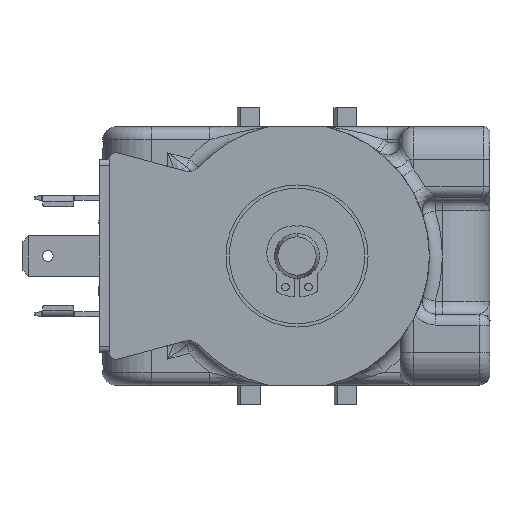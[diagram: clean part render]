
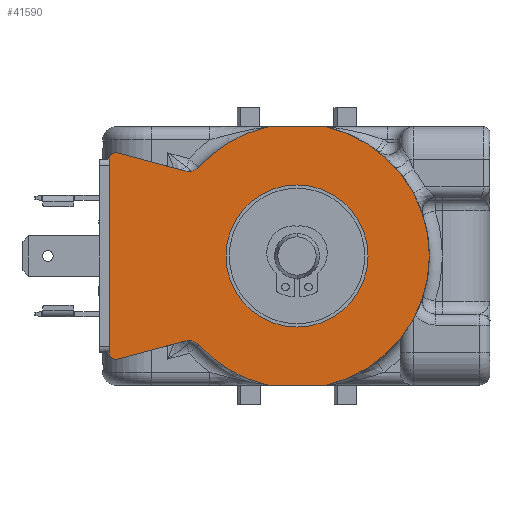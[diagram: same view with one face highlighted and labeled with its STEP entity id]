
A CAD part, front view. The second image highlights one B-rep face of the part: STEP entity #41590.
In plain terms, the highlighted planar face has unit normal (0, -1, 0).
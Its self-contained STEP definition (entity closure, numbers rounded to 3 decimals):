
#1490=DIRECTION('',(-1.,0.,0.));
#1491=VECTOR('',#1490,8.772);
#1492=CARTESIAN_POINT('',(4.5,-1.05,20.));
#1493=LINE('',#1492,#1491);
#4065=CARTESIAN_POINT('',(-28.107,-1.05,-15.025));
#4066=DIRECTION('',(0.,1.,0.));
#4067=DIRECTION('',(0.259,0.,-0.966));
#4068=AXIS2_PLACEMENT_3D('',#4065,#4066,#4067);
#4073=CARTESIAN_POINT('',(-28.107,-1.05,15.025));
#4074=DIRECTION('',(0.,1.,0.));
#4075=DIRECTION('',(-1.,0.,0.));
#4076=AXIS2_PLACEMENT_3D('',#4073,#4074,#4075);
#4081=DIRECTION('',(0.966,0.,-0.259));
#4082=VECTOR('',#4081,11.002);
#4083=CARTESIAN_POINT('',(-27.848,-1.05,15.991));
#4084=LINE('',#4083,#4082);
#4088=CARTESIAN_POINT('',(-16.703,-1.05,15.075));
#4089=DIRECTION('',(0.,-1.,0.));
#4090=DIRECTION('',(-0.259,0.,-0.966));
#4091=AXIS2_PLACEMENT_3D('',#4088,#4089,#4090);
#4096=CARTESIAN_POINT('',(0.,-1.05,0.));
#4097=DIRECTION('',(0.,1.,0.));
#4098=DIRECTION('',(-0.742,0.,0.67));
#4099=AXIS2_PLACEMENT_3D('',#4096,#4097,#4098);
#4104=CARTESIAN_POINT('',(-4.272,-1.05,18.));
#4105=DIRECTION('',(0.,1.,0.));
#4106=DIRECTION('',(-0.231,0.,0.973));
#4107=AXIS2_PLACEMENT_3D('',#4104,#4105,#4106);
#4112=CARTESIAN_POINT('',(0.,-1.05,0.));
#4113=DIRECTION('',(0.,1.,0.));
#4114=DIRECTION('',(0.22,0.,0.976));
#4115=AXIS2_PLACEMENT_3D('',#4112,#4113,#4114);
#4120=CARTESIAN_POINT('',(0.,-1.05,0.));
#4121=DIRECTION('',(0.,1.,0.));
#4122=DIRECTION('',(1.,0.,0.));
#4123=AXIS2_PLACEMENT_3D('',#4120,#4121,#4122);
#4128=DIRECTION('',(-1.,0.,0.));
#4129=VECTOR('',#4128,8.772);
#4130=CARTESIAN_POINT('',(4.5,-1.05,-20.));
#4131=LINE('',#4130,#4129);
#4135=CARTESIAN_POINT('',(-4.272,-1.05,-18.));
#4136=DIRECTION('',(0.,1.,0.));
#4137=DIRECTION('',(0.,0.,-1.));
#4138=AXIS2_PLACEMENT_3D('',#4135,#4136,#4137);
#4143=CARTESIAN_POINT('',(0.,-1.05,0.));
#4144=DIRECTION('',(0.,1.,0.));
#4145=DIRECTION('',(-0.231,0.,-0.973));
#4146=AXIS2_PLACEMENT_3D('',#4143,#4144,#4145);
#4151=CARTESIAN_POINT('',(-16.703,-1.05,-15.075));
#4152=DIRECTION('',(0.,-1.,0.));
#4153=DIRECTION('',(0.742,0.,0.67));
#4154=AXIS2_PLACEMENT_3D('',#4151,#4152,#4153);
#4159=DIRECTION('',(-0.966,0.,-0.259));
#4160=VECTOR('',#4159,11.002);
#4161=CARTESIAN_POINT('',(-17.221,-1.05,-13.143));
#4162=LINE('',#4161,#4160);
#4166=CARTESIAN_POINT('',(0.,-1.05,0.));
#4167=DIRECTION('',(0.,-1.,0.));
#4168=DIRECTION('',(0.,0.,1.));
#4169=AXIS2_PLACEMENT_3D('',#4166,#4167,#4168);
#4174=CARTESIAN_POINT('',(0.,-1.05,0.));
#4175=DIRECTION('',(0.,-1.,0.));
#4176=DIRECTION('',(0.,0.,-1.));
#4177=AXIS2_PLACEMENT_3D('',#4174,#4175,#4176);
#4454=DIRECTION('',(0.,0.,-1.));
#4455=VECTOR('',#4454,30.05);
#4456=CARTESIAN_POINT('',(-29.107,-1.05,15.025));
#4457=LINE('',#4456,#4455);
#34014=CARTESIAN_POINT('',(4.5,-1.05,20.));
#34015=VERTEX_POINT('',#34014);
#34016=CARTESIAN_POINT('',(-4.272,-1.05,20.));
#34017=VERTEX_POINT('',#34016);
#34221=CARTESIAN_POINT('',(-4.272,-1.05,-20.));
#34222=VERTEX_POINT('',#34221);
#34223=CARTESIAN_POINT('',(4.5,-1.05,-20.));
#34224=VERTEX_POINT('',#34223);
#37036=CARTESIAN_POINT('',(-29.107,-1.05,-15.025));
#37038=VERTEX_POINT('',#37036);
#37043=CARTESIAN_POINT('',(-29.107,-1.05,15.025));
#37044=VERTEX_POINT('',#37043);
#37261=CARTESIAN_POINT('',(0.,-1.05,11.));
#37262=CARTESIAN_POINT('',(0.,-1.05,-11.));
#37263=VERTEX_POINT('',#37261);
#37264=VERTEX_POINT('',#37262);
#37265=CARTESIAN_POINT('',(-27.848,-1.05,-15.991));
#37266=VERTEX_POINT('',#37265);
#37267=CARTESIAN_POINT('',(-27.848,-1.05,15.991));
#37268=VERTEX_POINT('',#37267);
#37269=CARTESIAN_POINT('',(-17.221,-1.05,13.143));
#37270=VERTEX_POINT('',#37269);
#37271=CARTESIAN_POINT('',(-15.218,-1.05,13.735));
#37272=VERTEX_POINT('',#37271);
#37273=CARTESIAN_POINT('',(-4.734,-1.05,19.946));
#37274=VERTEX_POINT('',#37273);
#37275=CARTESIAN_POINT('',(20.5,-1.05,0.));
#37276=VERTEX_POINT('',#37275);
#37277=CARTESIAN_POINT('',(-4.734,-1.05,-19.946));
#37278=VERTEX_POINT('',#37277);
#37279=CARTESIAN_POINT('',(-15.218,-1.05,-13.735));
#37280=VERTEX_POINT('',#37279);
#37281=CARTESIAN_POINT('',(-17.221,-1.05,-13.143));
#37282=VERTEX_POINT('',#37281);
#41552=CARTESIAN_POINT('',(-30.107,-1.05,-20.));
#41553=DIRECTION('',(0.,-1.,0.));
#41554=DIRECTION('',(1.,0.,0.));
#41555=AXIS2_PLACEMENT_3D('',#41552,#41553,#41554);
#41556=PLANE('',#41555);
#41558=ORIENTED_EDGE('',*,*,#41557,.T.);
#41560=ORIENTED_EDGE('',*,*,#41559,.F.);
#41561=ORIENTED_EDGE('',*,*,#41542,.T.);
#41562=ORIENTED_EDGE('',*,*,#41532,.T.);
#41563=ORIENTED_EDGE('',*,*,#41402,.T.);
#41565=ORIENTED_EDGE('',*,*,#41564,.T.);
#41567=ORIENTED_EDGE('',*,*,#41566,.T.);
#41568=ORIENTED_EDGE('',*,*,#39175,.F.);
#41570=ORIENTED_EDGE('',*,*,#41569,.T.);
#41572=ORIENTED_EDGE('',*,*,#41571,.T.);
#41573=ORIENTED_EDGE('',*,*,#40783,.T.);
#41575=ORIENTED_EDGE('',*,*,#41574,.T.);
#41577=ORIENTED_EDGE('',*,*,#41576,.T.);
#41579=ORIENTED_EDGE('',*,*,#41578,.T.);
#41581=ORIENTED_EDGE('',*,*,#41580,.T.);
#41582=EDGE_LOOP('',(#41558,#41560,#41561,#41562,#41563,#41565,#41567,#41568,
#41570,#41572,#41573,#41575,#41577,#41579,#41581));
#41583=FACE_OUTER_BOUND('',#41582,.F.);
#41585=ORIENTED_EDGE('',*,*,#41584,.T.);
#41587=ORIENTED_EDGE('',*,*,#41586,.T.);
#41588=EDGE_LOOP('',(#41585,#41587));
#41589=FACE_BOUND('',#41588,.F.);
#4069=CIRCLE('',#4068,1.);
#4077=CIRCLE('',#4076,1.);
#4092=CIRCLE('',#4091,2.);
#4100=CIRCLE('',#4099,20.5);
#4108=CIRCLE('',#4107,2.);
#4116=CIRCLE('',#4115,20.5);
#4124=CIRCLE('',#4123,20.5);
#4139=CIRCLE('',#4138,2.);
#4147=CIRCLE('',#4146,20.5);
#4155=CIRCLE('',#4154,2.);
#4170=CIRCLE('',#4169,11.);
#4178=CIRCLE('',#4177,11.);
#39175=EDGE_CURVE('',#34015,#34017,#1493,.T.);
#40783=EDGE_CURVE('',#34224,#34222,#4131,.T.);
#41402=EDGE_CURVE('',#37270,#37272,#4092,.T.);
#41532=EDGE_CURVE('',#37268,#37270,#4084,.T.);
#41542=EDGE_CURVE('',#37044,#37268,#4077,.T.);
#41557=EDGE_CURVE('',#37266,#37038,#4069,.T.);
#41559=EDGE_CURVE('',#37044,#37038,#4457,.T.);
#41564=EDGE_CURVE('',#37272,#37274,#4100,.T.);
#41566=EDGE_CURVE('',#37274,#34017,#4108,.T.);
#41569=EDGE_CURVE('',#34015,#37276,#4116,.T.);
#41571=EDGE_CURVE('',#37276,#34224,#4124,.T.);
#41574=EDGE_CURVE('',#34222,#37278,#4139,.T.);
#41576=EDGE_CURVE('',#37278,#37280,#4147,.T.);
#41578=EDGE_CURVE('',#37280,#37282,#4155,.T.);
#41580=EDGE_CURVE('',#37282,#37266,#4162,.T.);
#41584=EDGE_CURVE('',#37263,#37264,#4170,.T.);
#41586=EDGE_CURVE('',#37264,#37263,#4178,.T.);
#41590=ADVANCED_FACE('',(#41583,#41589),#41556,.T.);
